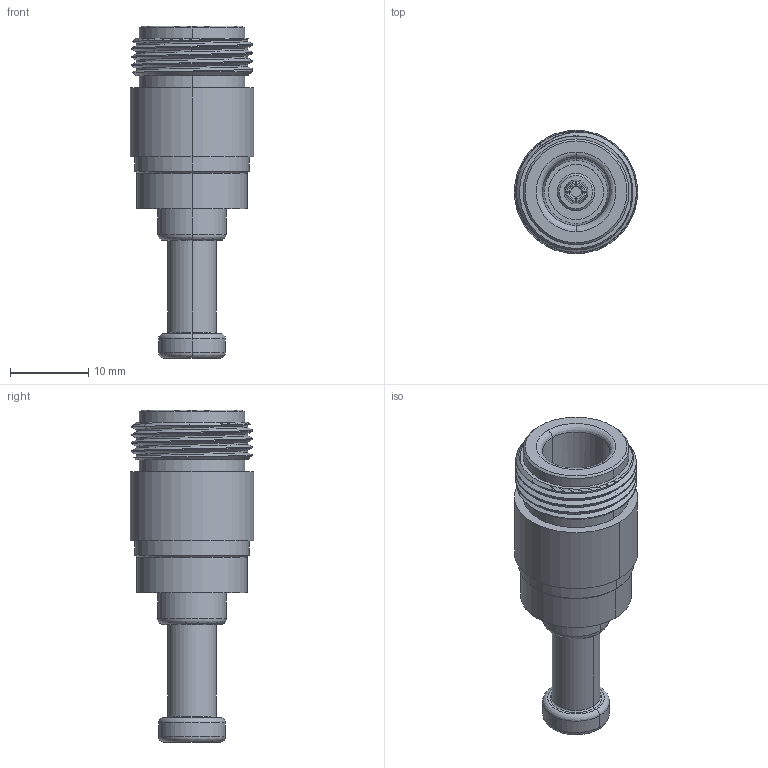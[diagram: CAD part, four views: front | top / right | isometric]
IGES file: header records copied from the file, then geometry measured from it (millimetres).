
Start section:  PTC IGES file: c-1-5225664-2-o-3d.igs
Global section: file name: c-1-5225664-2-o-3d.igs; native system: Creo Parametric by PTC Inc.; preprocessor: 2015200; author: workeradm; organization: Unknown; units: millimetre
Bounding box: 15.75 x 15.75 x 42.37 mm (x, y, z)
Surface area: 2519.8 mm2 (no closed solid volume)
Topology: 0 solids, 0 shells, 111 faces, 530 edges, 530 vertices
Faces by surface type: revolution 81, bspline 30
